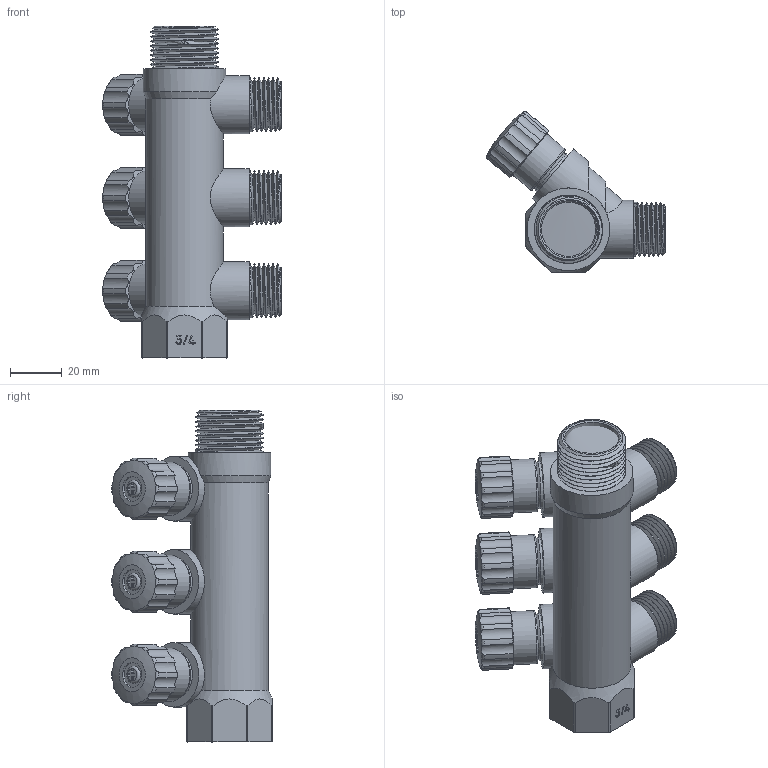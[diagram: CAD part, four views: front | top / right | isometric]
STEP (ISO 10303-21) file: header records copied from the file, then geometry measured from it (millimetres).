
FILE_DESCRIPTION(/* description */ (''),/* implementation_level */ '2;1');
FILE_NAME(/* name */ 'H:\Мишенин_3D\Исходные файлы 3D\VTc.560.N.0503.stp',/* time_stamp */ '2019-07-24T16:23:15+03:00',/* author */ ('misheninal'),/* organization */ (''),/* preprocessor_version */ 'ST-DEVELOPER v18',/* originating_system */ 'Autodesk Inventor 2020',/* authorisation */ '');
FILE_SCHEMA (('AUTOMOTIVE_DESIGN { 1 0 10303 214 3 1 1 }'));
Length unit declared in the file: millimetre
Products named in the file (1): VT.580_3%4_1%2-4
Bounding box: 69.21 x 62.26 x 128.5 mm (x, y, z)
Volume: 85113.9 mm3; surface area: 46048 mm2
Topology: 1 solids, 1 shells, 469 faces, 1326 edges, 892 vertices
Faces by surface type: cylinder 208, plane 132, bspline 57, torus 43, cone 29
Full cylindrical faces by diameter (mm): 9.679 x3, 10.5 x3, 15.1 x3, 16.1 x3, 17.4 x18, 18.621 x3, 20.621 x3, 21 x16, 22.5 x3, 22.8 x9, 24.2 x3, 25 x3, 26.4 x9, 27.5 x2, 27.8 x7, 30 x1, 32 x1
Entity records: 26790 total; most frequent: CARTESIAN_POINT 15255, ORIENTED_EDGE 2652, DIRECTION 2078, EDGE_CURVE 1326, VERTEX_POINT 892, AXIS2_PLACEMENT_3D 797, EDGE_LOOP 510, LINE 484
